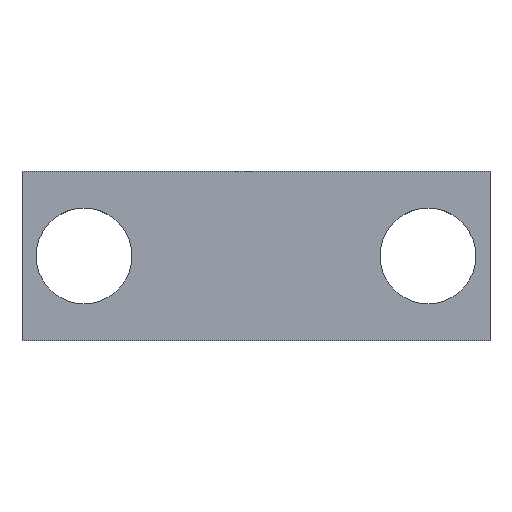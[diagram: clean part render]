
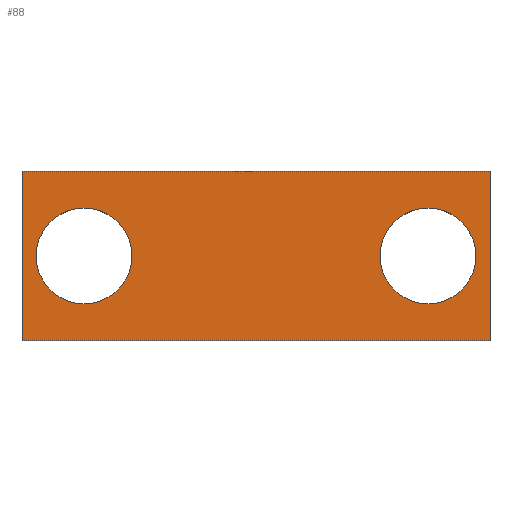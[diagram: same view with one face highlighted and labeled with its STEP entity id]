
A CAD part, top view. The second image highlights one B-rep face of the part: STEP entity #88.
In plain terms, the highlighted planar face has unit normal (0, 0, 1).
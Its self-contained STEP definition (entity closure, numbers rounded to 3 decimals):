
#24 = VERTEX_POINT('',#25);
#25 = CARTESIAN_POINT('',(40.075,7.75,40.15));
#40 = VERTEX_POINT('',#41);
#41 = CARTESIAN_POINT('',(40.075,13.75,40.15));
#47 = EDGE_CURVE('',#24,#40,#48,.T.);
#48 = LINE('',#49,#50);
#49 = CARTESIAN_POINT('',(40.075,7.75,40.15));
#50 = VECTOR('',#51,1.);
#51 = DIRECTION('',(-0.,1.,0.));
#70 = EDGE_CURVE('',#24,#71,#73,.T.);
#71 = VERTEX_POINT('',#72);
#72 = CARTESIAN_POINT('',(56.675,7.75,40.15));
#73 = LINE('',#74,#75);
#74 = CARTESIAN_POINT('',(40.075,7.75,40.15));
#75 = VECTOR('',#76,1.);
#76 = DIRECTION('',(1.,0.,-0.));
#88 = ADVANCED_FACE('',(#89,#107,#118),#129,.T.);
#89 = FACE_BOUND('',#90,.T.);
#90 = EDGE_LOOP('',(#91,#92,#93,#101));
#91 = ORIENTED_EDGE('',*,*,#47,.F.);
#92 = ORIENTED_EDGE('',*,*,#70,.T.);
#93 = ORIENTED_EDGE('',*,*,#94,.T.);
#94 = EDGE_CURVE('',#71,#95,#97,.T.);
#95 = VERTEX_POINT('',#96);
#96 = CARTESIAN_POINT('',(56.675,13.75,40.15));
#97 = LINE('',#98,#99);
#98 = CARTESIAN_POINT('',(56.675,7.75,40.15));
#99 = VECTOR('',#100,1.);
#100 = DIRECTION('',(-0.,1.,0.));
#101 = ORIENTED_EDGE('',*,*,#102,.F.);
#102 = EDGE_CURVE('',#40,#95,#103,.T.);
#103 = LINE('',#104,#105);
#104 = CARTESIAN_POINT('',(40.075,13.75,40.15));
#105 = VECTOR('',#106,1.);
#106 = DIRECTION('',(1.,0.,-0.));
#107 = FACE_BOUND('',#108,.T.);
#108 = EDGE_LOOP('',(#109));
#109 = ORIENTED_EDGE('',*,*,#110,.F.);
#110 = EDGE_CURVE('',#111,#111,#113,.T.);
#111 = VERTEX_POINT('',#112);
#112 = CARTESIAN_POINT('',(43.975,10.75,40.15));
#113 = CIRCLE('',#114,1.7);
#114 = AXIS2_PLACEMENT_3D('',#115,#116,#117);
#115 = CARTESIAN_POINT('',(42.275,10.75,40.15));
#116 = DIRECTION('',(0.,0.,1.));
#117 = DIRECTION('',(1.,0.,-0.));
#118 = FACE_BOUND('',#119,.T.);
#119 = EDGE_LOOP('',(#120));
#120 = ORIENTED_EDGE('',*,*,#121,.F.);
#121 = EDGE_CURVE('',#122,#122,#124,.T.);
#122 = VERTEX_POINT('',#123);
#123 = CARTESIAN_POINT('',(56.175,10.75,40.15));
#124 = CIRCLE('',#125,1.7);
#125 = AXIS2_PLACEMENT_3D('',#126,#127,#128);
#126 = CARTESIAN_POINT('',(54.475,10.75,40.15));
#127 = DIRECTION('',(0.,0.,1.));
#128 = DIRECTION('',(1.,0.,-0.));
#129 = PLANE('',#130);
#130 = AXIS2_PLACEMENT_3D('',#131,#132,#133);
#131 = CARTESIAN_POINT('',(40.075,7.75,40.15));
#132 = DIRECTION('',(0.,0.,1.));
#133 = DIRECTION('',(1.,0.,-0.));
